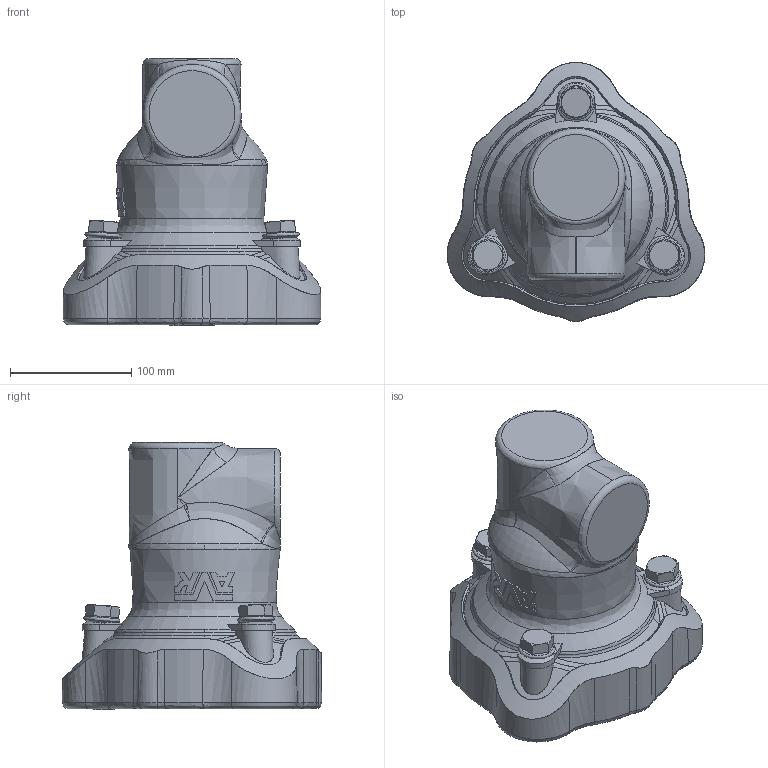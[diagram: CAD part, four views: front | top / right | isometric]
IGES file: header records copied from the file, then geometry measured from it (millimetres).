
Start section: SolidWorks IGES file using analytic representation for surfaces
Global section: file name: \\avksan2\techshare\PBM outline export from Enovia\O_634_00_DN080_082-106mm_AA0_igs.igs; native system: SolidWorks 2012; preprocessor: SolidWorks 2012; author: pbm; date: 160510.111543; units: millimetre
Bounding box: 212.74 x 214.14 x 220.51 mm (x, y, z)
Surface area: 200282.5 mm2 (no closed solid volume)
Topology: 0 solids, 0 shells, 417 faces, 2871 edges, 2846 vertices
Faces by surface type: bspline 293, revolution 124
